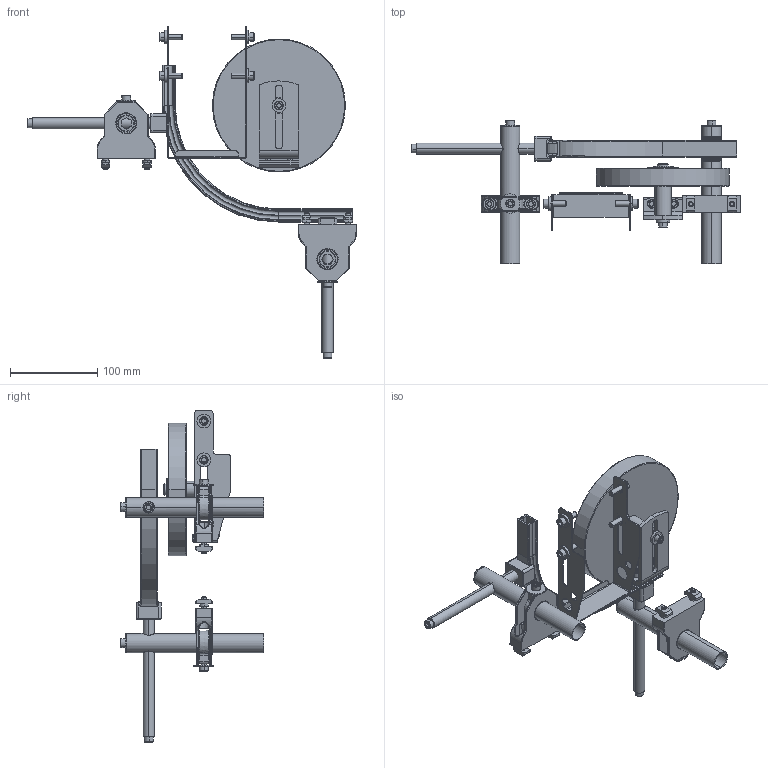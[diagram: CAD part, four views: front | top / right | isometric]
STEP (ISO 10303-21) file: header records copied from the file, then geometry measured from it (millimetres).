
FILE_DESCRIPTION (( 'STEP AP203' ), '1' );
FILE_NAME ('206524-03.STEP', '2017-05-19T13:54:59', ( '' ), ( '' ), 'SwSTEP 2.0', 'SolidWorks 2015', '' );
FILE_SCHEMA (( 'CONFIG_CONTROL_DESIGN' ));
Length unit declared in the file: inch
Products named in the file (28): 207138-WW_3; 200830M; 206381_206381; 9206XXM_920614M; 234007M; 9206XXM_920620M; 911-709_91090A107; 234005M; X26235_206686-2; 207125-WW_207125-03; 9206XXM_920616M; 206380; 206383_206383; 915-218; 234006; 807-2859_91760A321; 234003M; 206524-03; 605279P; 990601M; 206397_206397; 206385_0.875OD; 206685; 206382_206382_DRAFTS; X26235_206686-1; 9206XXM_9206150M; 206386; 807-920
Assembly tree (60 placements, depth 3):
  206524-03
    234006
    9206XXM_920616M
    9206XXM_920614M  x2
    200830M
    234007M
    605279P  x5
    234003M
    915-218
    234005M
    207125-WW_207125-03
    207138-WW_3
    X26235_206686-2
      206380
      206381_206381
      206385_0.875OD
      206382_206382_DRAFTS
      206383_206383
      206397_206397
      911-709_91090A107  x2
      9206XXM_920614M  x2
      206685  x2
      807-920  x2
      990601M
      206386
      9206XXM_9206150M
      807-2859_91760A321  x2
    X26235_206686-1
      206380
      206381_206381
      206385_0.875OD
      206382_206382_DRAFTS
      206383_206383
      206397_206397
      911-709_91090A107  x2
      9206XXM_920614M  x2
      206685  x2
      807-920  x2
      990601M
      206386
      9206XXM_9206150M
      807-2859_91760A321  x2
    9206XXM_920620M  x4
Bounding box: 377.46 x 164.65 x 380.62 mm (x, y, z)
Volume: 625932.5 mm3; surface area: 273032.2 mm2
Topology: 58 solids, 58 shells, 2112 faces, 4839 edges, 2820 vertices
Faces by surface type: cylinder 726, plane 620, cone 342, bspline 198, torus 178, sphere 48
Entity records: 39717 total; most frequent: CARTESIAN_POINT 11995, DIRECTION 5127, ORIENTED_EDGE 4942, EDGE_CURVE 2471, AXIS2_PLACEMENT_3D 2016, VERTEX_POINT 1463, EDGE_LOOP 1146, VECTOR 1095
